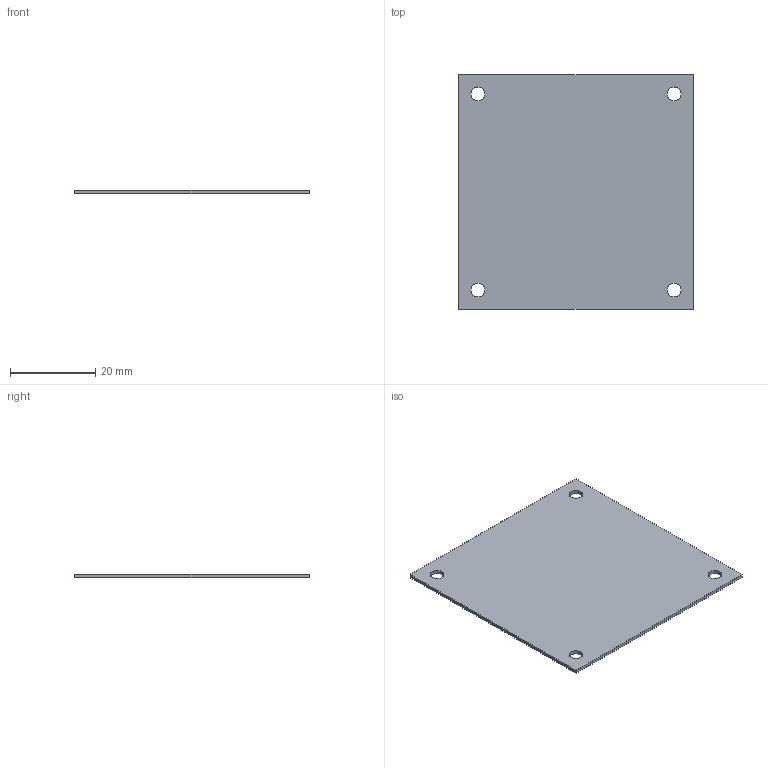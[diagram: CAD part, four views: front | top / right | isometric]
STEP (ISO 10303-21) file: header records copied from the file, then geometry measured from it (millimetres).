
FILE_DESCRIPTION(('KiCad electronic assembly'),'2;1');
FILE_NAME('SDL4-0002_REV_A_board-only.step','2026-11-05T16:30:37',( 'Pcbnew'),('Kicad'),'Open CASCADE STEP processor 7.9', 'KiCad to STEP converter','Unknown');
FILE_SCHEMA(('AUTOMOTIVE_DESIGN { 1 0 10303 214 1 1 1 1 }'));
Length unit declared in the file: millimetre
Products named in the file (2): SDL4-0002_REV_A_board-only 1; photoreactor_led_PCB
Assembly tree (1 placements, depth 2):
  SDL4-0002_REV_A_board-only 1
    photoreactor_led_PCB
Bounding box: 55 x 55 x 0.84 mm (x, y, z)
Volume: 2514 mm3; surface area: 6204.2 mm2
Topology: 1 solids, 1 shells, 10 faces, 24 edges, 16 vertices
Faces by surface type: plane 6, cylinder 4
Full cylindrical faces by diameter (mm): 3.2 x4
Entity records: 349 total; most frequent: DIRECTION 56, CARTESIAN_POINT 52, ORIENTED_EDGE 48, EDGE_CURVE 24, AXIS2_PLACEMENT_3D 20, FACE_BOUND 18, EDGE_LOOP 18, VERTEX_POINT 16
